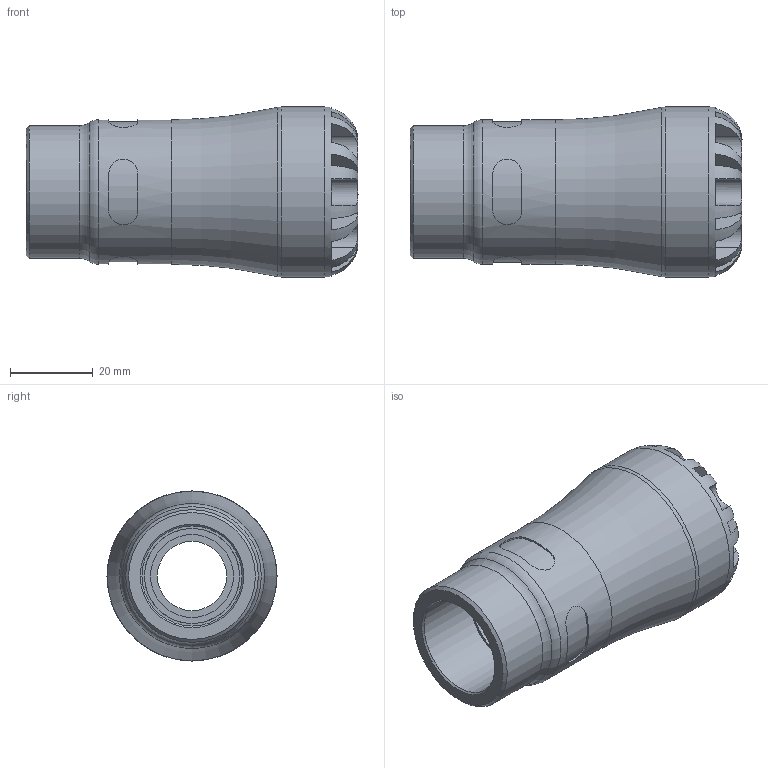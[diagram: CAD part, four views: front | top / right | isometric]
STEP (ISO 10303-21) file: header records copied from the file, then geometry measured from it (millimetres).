
FILE_DESCRIPTION(/* description */ ('PLASSON FEMALE INTEGRAL BRASS THREAD 20X3/4" SERIES 1'),/* implementation_level */ '2;1');
FILE_NAME(/* name */ 'C:\Dropbox\KIMPROJECTS-Inventor\99-16-3568-Processing\1073\107300020007_197300020007.ipt.stp',/* time_stamp */ '2017-01-22T11:35:20+02:00',/* author */ ('KIM'),/* organization */ (''),/* preprocessor_version */ 'ST-DEVELOPER v15.6',/* originating_system */ 'Autodesk Inventor 2015',/* authorisation */ '');
FILE_SCHEMA (('AUTOMOTIVE_DESIGN { 1 0 10303 214 3 1 1 }'));
Length unit declared in the file: millimetre
Products named in the file (1): 107300020007_197300020007
Bounding box: 80 x 41 x 41 mm (x, y, z)
Volume: 52634.9 mm3; surface area: 17014.1 mm2
Topology: 1 solids, 1 shells, 108 faces, 263 edges, 165 vertices
Faces by surface type: plane 63, cylinder 37, torus 5, cone 3
Full cylindrical faces by diameter (mm): 16.667 x1, 20 x2, 22.911 x2, 24.117 x1, 31.98 x1, 34.85 x1, 41 x1
Entity records: 3820 total; most frequent: CARTESIAN_POINT 1417, DIRECTION 488, ORIENTED_EDGE 478, EDGE_CURVE 239, AXIS2_PLACEMENT_3D 204, VERTEX_POINT 159, EDGE_LOOP 136, FACE_OUTER_BOUND 108
